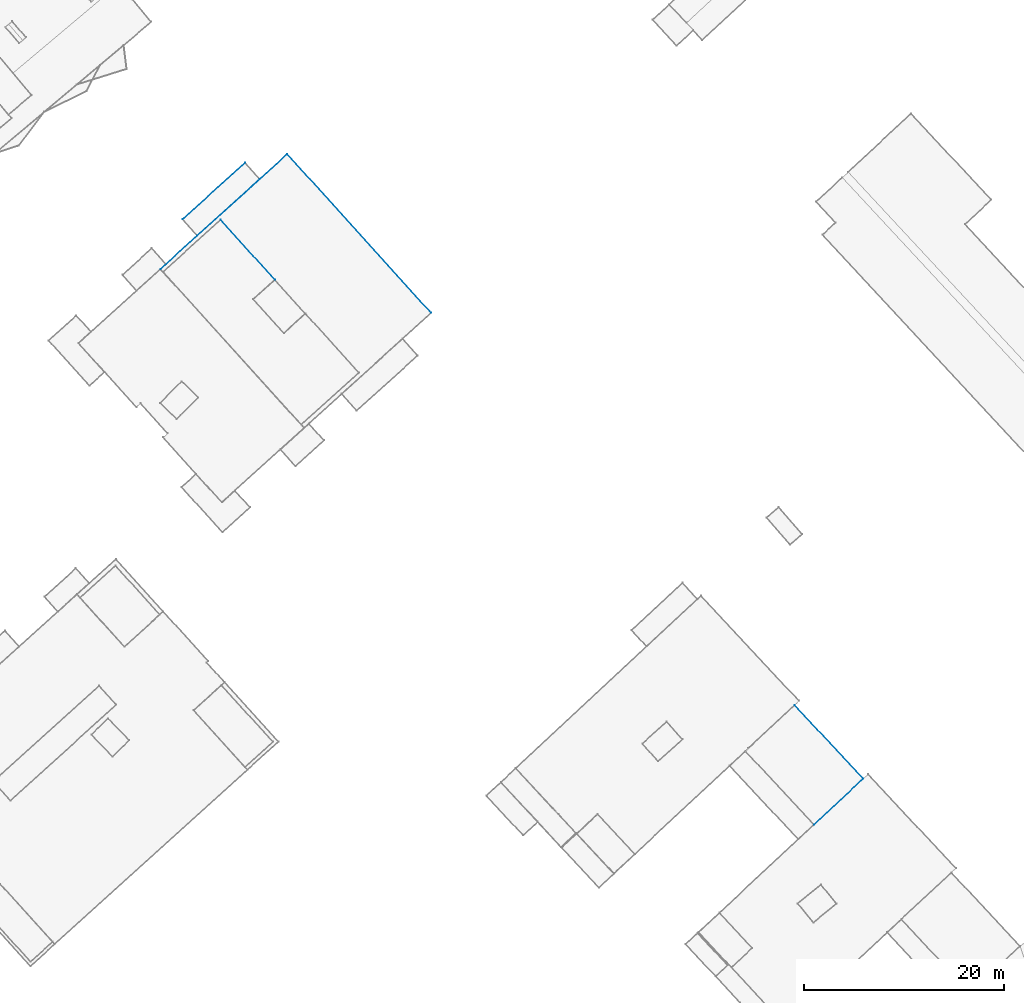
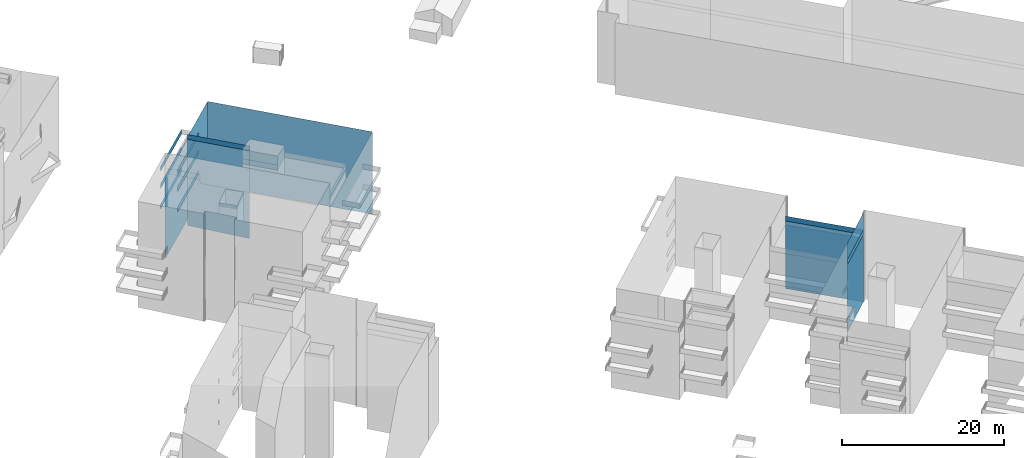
# Not in any storey, part 29 of 136: 25 walls.
"""IFC4 building model written with IfcOpenShell, lengths in metres."""

from ifc_helpers import new_model, entity, si_unit, converted_unit, frame, origin, place, context, subcontext, project, spatial, face_set, surface_model, element, save


model = new_model("IFC4")

# Units and contexts
model_context = context("Model", 3, precision=1e-05, world=origin())
body_context = subcontext(model_context, "Body", "Model", "MODEL_VIEW")
ifc_project = project(units=[converted_unit("PLANEANGLEUNIT", "DEGREE", entity("IfcRatioMeasure", 0.0174532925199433), si_unit("PLANEANGLEUNIT", "RADIAN"), dimensions=[0, 0, 0, 0, 0, 0, 0]), si_unit("AREAUNIT", "SQUARE_METRE"), si_unit("LENGTHUNIT", "METRE")], contexts=[model_context])

# Site, building
site_placement = place(None, origin())
site = spatial("IfcSite", under=ifc_project, at=site_placement, Name="_site")
building_1_placement = place(site_placement, origin())
building_1 = spatial("IfcBuilding", under=site, at=building_1_placement, Name="_building")

# Walls
wall_1_placement = place(building_1_placement, origin())
element("IfcWall", 1, at=wall_1_placement, inside=building_1, Name="Wall", PredefinedType="NOTDEFINED", context=body_context, shape_type="SurfaceModel", body=[
    surface_model("IfcFaceBasedSurfaceModel", [(134.12, 4.101, 48.33), (140.97, -3.229, 48.33), (140.97, -3.229, 38.196), (134.12, 4.101, 38.159)], [face_set([[[0, 1, 2, 3]]])]),
])
wall_2_placement = place(building_1_placement, origin())
element("IfcWall", 2, at=wall_2_placement, inside=building_1, Name="Wall", PredefinedType="NOTDEFINED", context=body_context, shape_type="SurfaceModel", body=[
    surface_model("IfcFaceBasedSurfaceModel", [(134.12, 4.101, 47.82), (140.97, -3.229, 47.82), (140.97, -3.229, 38.196), (134.12, 4.101, 38.159)], [face_set([[[0, 1, 2, 3]]])]),
])
for number, where, name in (
    (3, (0.0, 0.0, 0.0), "Wall"),
    (4, (0.0, 0.0, 0.0), "Wall"),
):
    element("IfcWall", number, at=place(building_1_placement, frame(where)), inside=building_1, Name=name, PredefinedType="NOTDEFINED", context=body_context, shape_type="SurfaceModel", body=[
        surface_model("IfcFaceBasedSurfaceModel", [(134.12, 4.101, 48.33), (140.97, -3.229, 48.33), (140.97, -3.229, 49.08), (134.12, 4.101, 49.08)], [face_set([[[0, 1, 2, 3]]])]),
    ])

# Building
building_2_placement = place(site_placement, origin())
building_2 = spatial("IfcBuilding", under=site, at=building_2_placement, Name="_building")

# Walls
wall_3_placement = place(building_2_placement, origin())
element("IfcWall", 5, at=wall_3_placement, inside=building_2, Name="Wall", PredefinedType="NOTDEFINED", context=body_context, shape_type="SurfaceModel", body=[
    surface_model("IfcFaceBasedSurfaceModel", [(136.06, -7.81, 51.59), (140.97, -3.229, 51.59), (140.97, -3.229, 47.82), (136.06, -7.81, 47.82)], [face_set([[[0, 1, 2, 3]]])]),
])
for number, where, name in (
    (6, (0.0, 0.0, 0.0), "Wall"),
    (7, (0.0, 0.0, 0.0), "Wall"),
):
    element("IfcWall", number, at=place(building_2_placement, frame(where)), inside=building_2, Name=name, PredefinedType="NOTDEFINED", context=body_context, shape_type="SurfaceModel", body=[
        surface_model("IfcFaceBasedSurfaceModel", [(140.97, -3.229, 48.33), (136.06, -7.81, 48.33), (136.06, -7.81, 49.08), (140.97, -3.229, 49.08)], [face_set([[[0, 1, 2, 3]]])]),
    ])
wall_4_placement = place(building_2_placement, origin())
element("IfcWall", 8, at=wall_4_placement, inside=building_2, Name="Wall", PredefinedType="NOTDEFINED", context=body_context, shape_type="SurfaceModel", body=[
    surface_model("IfcFaceBasedSurfaceModel", [(140.97, -3.229, 48.33), (136.06, -7.81, 48.33), (136.06, -7.81, 38.131), (140.97, -3.229, 38.196)], [face_set([[[0, 1, 2, 3]]])]),
])

# Building
building_3_placement = place(site_placement, origin())
building_3 = spatial("IfcBuilding", under=site, at=building_3_placement, Name="_building")

# Walls
for number, where, name in (
    (9, (0.0, 0.0, 0.0), "Wall"),
    (10, (0.0, 0.0, 0.0), "Wall"),
):
    element("IfcWall", number, at=place(building_3_placement, frame(where)), inside=building_3, Name=name, PredefinedType="NOTDEFINED", context=body_context, shape_type="SurfaceModel", body=[
        surface_model("IfcFaceBasedSurfaceModel", [(76.85, 52.521, 51.32), (82.27, 46.54, 51.32), (82.27, 46.54, 52.07), (76.85, 52.521, 52.07)], [face_set([[[0, 1, 2, 3]]])]),
    ])
wall_5_placement = place(building_3_placement, origin())
element("IfcWall", 11, at=wall_5_placement, inside=building_3, Name="Wall", PredefinedType="NOTDEFINED", context=body_context, shape_type="SurfaceModel", body=[
    surface_model("IfcFaceBasedSurfaceModel", [(80.76, 56.58, 47.79), (74.53, 50.94, 47.79), (74.53, 50.94, 48.54), (80.76, 56.58, 48.54)], [face_set([[[0, 1, 2, 3]]])]),
])
wall_6_placement = place(building_3_placement, origin())
element("IfcWall", 12, at=wall_6_placement, inside=building_3, Name="Wall", PredefinedType="NOTDEFINED", context=body_context, shape_type="SurfaceModel", body=[
    surface_model("IfcFaceBasedSurfaceModel", [(73.06, 52.57, 47.79), (79.29, 58.21, 47.79), (79.29, 58.21, 48.54), (73.06, 52.57, 48.54)], [face_set([[[0, 1, 2, 3]]])]),
])
wall_7_placement = place(building_3_placement, origin())
element("IfcWall", 13, at=wall_7_placement, inside=building_3, Name="Wall", PredefinedType="NOTDEFINED", context=body_context, shape_type="SurfaceModel", body=[
    surface_model("IfcFaceBasedSurfaceModel", [(80.76, 56.58, 47.79), (74.53, 50.94, 47.79), (74.53, 50.94, 48.54), (80.76, 56.58, 48.54)], [face_set([[[0, 1, 2, 3]]])]),
])
wall_8_placement = place(building_3_placement, origin())
element("IfcWall", 14, at=wall_8_placement, inside=building_3, Name="Wall", PredefinedType="NOTDEFINED", context=body_context, shape_type="SurfaceModel", body=[
    surface_model("IfcFaceBasedSurfaceModel", [(73.06, 52.57, 47.79), (79.29, 58.21, 47.79), (79.29, 58.21, 48.54), (73.06, 52.57, 48.54)], [face_set([[[0, 1, 2, 3]]])]),
])
wall_9_placement = place(building_3_placement, origin())
element("IfcWall", 15, at=wall_9_placement, inside=building_3, Name="Wall", PredefinedType="NOTDEFINED", context=body_context, shape_type="SurfaceModel", body=[
    surface_model("IfcFaceBasedSurfaceModel", [(76.85, 52.521, 51.32), (82.27, 46.54, 51.32), (82.27, 46.54, 38.106), (76.85, 52.521, 38.365)], [face_set([[[0, 1, 2, 3]]])]),
])
wall_10_placement = place(building_3_placement, origin())
element("IfcWall", 16, at=wall_10_placement, inside=building_3, Name="Wall", PredefinedType="NOTDEFINED", context=body_context, shape_type="SurfaceModel", body=[
    surface_model("IfcFaceBasedSurfaceModel", [(80.76, 56.58, 42.09), (74.53, 50.94, 42.09), (74.53, 50.94, 42.84), (80.76, 56.58, 42.84)], [face_set([[[0, 1, 2, 3]]])]),
])
wall_11_placement = place(building_3_placement, origin())
element("IfcWall", 17, at=wall_11_placement, inside=building_3, Name="Wall", PredefinedType="NOTDEFINED", context=body_context, shape_type="SurfaceModel", body=[
    surface_model("IfcFaceBasedSurfaceModel", [(73.06, 52.57, 42.09), (79.29, 58.21, 42.09), (79.29, 58.21, 42.84), (73.06, 52.57, 42.84)], [face_set([[[0, 1, 2, 3]]])]),
])
wall_12_placement = place(building_3_placement, origin())
element("IfcWall", 18, at=wall_12_placement, inside=building_3, Name="Wall", PredefinedType="NOTDEFINED", context=body_context, shape_type="SurfaceModel", body=[
    surface_model("IfcFaceBasedSurfaceModel", [(80.76, 56.58, 42.09), (74.53, 50.94, 42.09), (74.53, 50.94, 42.84), (80.76, 56.58, 42.84)], [face_set([[[0, 1, 2, 3]]])]),
])
wall_13_placement = place(building_3_placement, origin())
element("IfcWall", 19, at=wall_13_placement, inside=building_3, Name="Wall", PredefinedType="NOTDEFINED", context=body_context, shape_type="SurfaceModel", body=[
    surface_model("IfcFaceBasedSurfaceModel", [(73.06, 52.57, 42.09), (79.29, 58.21, 42.09), (79.29, 58.21, 42.84), (73.06, 52.57, 42.84)], [face_set([[[0, 1, 2, 3]]])]),
])
wall_14_placement = place(building_3_placement, origin())
element("IfcWall", 20, at=wall_14_placement, inside=building_3, Name="Wall", PredefinedType="NOTDEFINED", context=body_context, shape_type="SurfaceModel", body=[
    surface_model("IfcFaceBasedSurfaceModel", [(83.51, 59.08, 50.74), (97.86, 43.23, 50.74), (97.86, 43.23, 38.313), (83.51, 59.08, 38.229)], [face_set([[[0, 1, 2, 3]]])]),
])
wall_15_placement = place(building_3_placement, origin())
element("IfcWall", 21, at=wall_15_placement, inside=building_3, Name="Wall", PredefinedType="NOTDEFINED", context=body_context, shape_type="SurfaceModel", body=[
    surface_model("IfcFaceBasedSurfaceModel", [(70.85, 47.61, 50.74), (83.51, 59.08, 50.74), (83.51, 59.08, 38.229), (70.85, 47.61, 38.409)], [face_set([[[0, 1, 2, 3]]])]),
])
wall_16_placement = place(building_3_placement, origin())
element("IfcWall", 22, at=wall_16_placement, inside=building_3, Name="Wall", PredefinedType="NOTDEFINED", context=body_context, shape_type="SurfaceModel", body=[
    surface_model("IfcFaceBasedSurfaceModel", [(80.76, 56.58, 45.18), (74.53, 50.94, 45.18), (74.53, 50.94, 45.93), (80.76, 56.58, 45.93)], [face_set([[[0, 1, 2, 3]]])]),
])
wall_17_placement = place(building_3_placement, origin())
element("IfcWall", 23, at=wall_17_placement, inside=building_3, Name="Wall", PredefinedType="NOTDEFINED", context=body_context, shape_type="SurfaceModel", body=[
    surface_model("IfcFaceBasedSurfaceModel", [(73.06, 52.57, 45.18), (79.29, 58.21, 45.18), (79.29, 58.21, 45.93), (73.06, 52.57, 45.93)], [face_set([[[0, 1, 2, 3]]])]),
])
wall_18_placement = place(building_3_placement, origin())
element("IfcWall", 24, at=wall_18_placement, inside=building_3, Name="Wall", PredefinedType="NOTDEFINED", context=body_context, shape_type="SurfaceModel", body=[
    surface_model("IfcFaceBasedSurfaceModel", [(80.76, 56.58, 45.18), (74.53, 50.94, 45.18), (74.53, 50.94, 45.93), (80.76, 56.58, 45.93)], [face_set([[[0, 1, 2, 3]]])]),
])
wall_19_placement = place(building_3_placement, origin())
element("IfcWall", 25, at=wall_19_placement, inside=building_3, Name="Wall", PredefinedType="NOTDEFINED", context=body_context, shape_type="SurfaceModel", body=[
    surface_model("IfcFaceBasedSurfaceModel", [(73.06, 52.57, 45.18), (79.29, 58.21, 45.18), (79.29, 58.21, 45.93), (73.06, 52.57, 45.93)], [face_set([[[0, 1, 2, 3]]])]),
])

save(model, "model.ifc")
